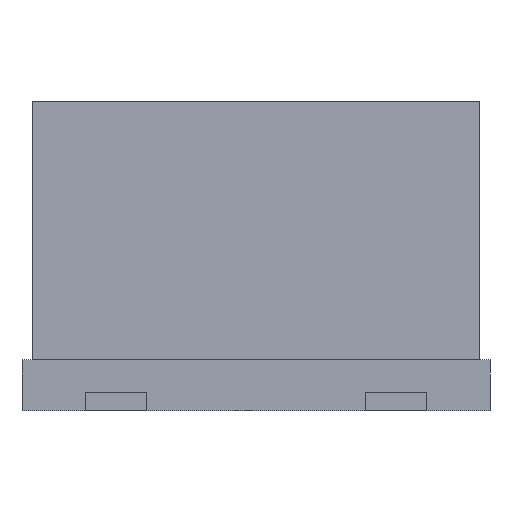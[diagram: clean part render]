
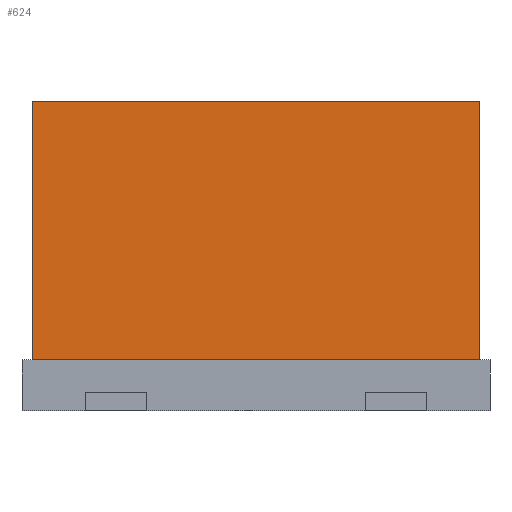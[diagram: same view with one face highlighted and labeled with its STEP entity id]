
A CAD part, front view. The second image highlights one B-rep face of the part: STEP entity #624.
In plain terms, the highlighted planar face has unit normal (0, -1, 0).
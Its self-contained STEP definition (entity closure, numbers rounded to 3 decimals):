
#408 = EDGE_CURVE('',#409,#411,#413,.T.);
#409 = VERTEX_POINT('',#410);
#410 = CARTESIAN_POINT('',(-11.,-9.5,2.5));
#411 = VERTEX_POINT('',#412);
#412 = CARTESIAN_POINT('',(-11.,-9.5,15.2));
#413 = SURFACE_CURVE('',#414,(#418,#430),.PCURVE_S1.);
#414 = LINE('',#415,#416);
#415 = CARTESIAN_POINT('',(-11.,-9.5,2.5));
#416 = VECTOR('',#417,1.);
#417 = DIRECTION('',(0.,0.,1.));
#418 = PCURVE('',#419,#424);
#419 = PLANE('',#420);
#420 = AXIS2_PLACEMENT_3D('',#421,#422,#423);
#421 = CARTESIAN_POINT('',(-11.,-9.5,2.5));
#422 = DIRECTION('',(1.,0.,-0.));
#423 = DIRECTION('',(0.,0.,1.));
#424 = DEFINITIONAL_REPRESENTATION('',(#425),#429);
#425 = LINE('',#426,#427);
#426 = CARTESIAN_POINT('',(0.,0.));
#427 = VECTOR('',#428,1.);
#428 = DIRECTION('',(1.,0.));
#429 = ( GEOMETRIC_REPRESENTATION_CONTEXT(2) 
PARAMETRIC_REPRESENTATION_CONTEXT() REPRESENTATION_CONTEXT('2D SPACE',''
  ) );
#430 = PCURVE('',#431,#436);
#431 = PLANE('',#432);
#432 = AXIS2_PLACEMENT_3D('',#433,#434,#435);
#433 = CARTESIAN_POINT('',(-11.,-9.5,2.5));
#434 = DIRECTION('',(-0.,1.,0.));
#435 = DIRECTION('',(0.,0.,1.));
#436 = DEFINITIONAL_REPRESENTATION('',(#437),#441);
#437 = LINE('',#438,#439);
#438 = CARTESIAN_POINT('',(0.,0.));
#439 = VECTOR('',#440,1.);
#440 = DIRECTION('',(1.,0.));
#441 = ( GEOMETRIC_REPRESENTATION_CONTEXT(2) 
PARAMETRIC_REPRESENTATION_CONTEXT() REPRESENTATION_CONTEXT('2D SPACE',''
  ) );
#459 = PLANE('',#460);
#460 = AXIS2_PLACEMENT_3D('',#461,#462,#463);
#461 = CARTESIAN_POINT('',(-11.,-9.5,2.5));
#462 = DIRECTION('',(0.,0.,1.));
#463 = DIRECTION('',(1.,0.,-0.));
#513 = PLANE('',#514);
#514 = AXIS2_PLACEMENT_3D('',#515,#516,#517);
#515 = CARTESIAN_POINT('',(-11.,-9.5,15.2));
#516 = DIRECTION('',(0.,0.,1.));
#517 = DIRECTION('',(1.,0.,-0.));
#528 = EDGE_CURVE('',#529,#531,#533,.T.);
#529 = VERTEX_POINT('',#530);
#530 = CARTESIAN_POINT('',(11.,-9.5,2.5));
#531 = VERTEX_POINT('',#532);
#532 = CARTESIAN_POINT('',(11.,-9.5,15.2));
#533 = SURFACE_CURVE('',#534,(#538,#550),.PCURVE_S1.);
#534 = LINE('',#535,#536);
#535 = CARTESIAN_POINT('',(11.,-9.5,2.5));
#536 = VECTOR('',#537,1.);
#537 = DIRECTION('',(0.,0.,1.));
#538 = PCURVE('',#539,#544);
#539 = PLANE('',#540);
#540 = AXIS2_PLACEMENT_3D('',#541,#542,#543);
#541 = CARTESIAN_POINT('',(11.,-9.5,2.5));
#542 = DIRECTION('',(1.,0.,-0.));
#543 = DIRECTION('',(0.,0.,1.));
#544 = DEFINITIONAL_REPRESENTATION('',(#545),#549);
#545 = LINE('',#546,#547);
#546 = CARTESIAN_POINT('',(0.,0.));
#547 = VECTOR('',#548,1.);
#548 = DIRECTION('',(1.,0.));
#549 = ( GEOMETRIC_REPRESENTATION_CONTEXT(2) 
PARAMETRIC_REPRESENTATION_CONTEXT() REPRESENTATION_CONTEXT('2D SPACE',''
  ) );
#550 = PCURVE('',#431,#551);
#551 = DEFINITIONAL_REPRESENTATION('',(#552),#556);
#552 = LINE('',#553,#554);
#553 = CARTESIAN_POINT('',(0.,22.));
#554 = VECTOR('',#555,1.);
#555 = DIRECTION('',(1.,0.));
#556 = ( GEOMETRIC_REPRESENTATION_CONTEXT(2) 
PARAMETRIC_REPRESENTATION_CONTEXT() REPRESENTATION_CONTEXT('2D SPACE',''
  ) );
#624 = ADVANCED_FACE('',(#625),#431,.F.);
#625 = FACE_BOUND('',#626,.F.);
#626 = EDGE_LOOP('',(#627,#648,#649,#670));
#627 = ORIENTED_EDGE('',*,*,#628,.F.);
#628 = EDGE_CURVE('',#409,#529,#629,.T.);
#629 = SURFACE_CURVE('',#630,(#634,#641),.PCURVE_S1.);
#630 = LINE('',#631,#632);
#631 = CARTESIAN_POINT('',(-11.,-9.5,2.5));
#632 = VECTOR('',#633,1.);
#633 = DIRECTION('',(1.,0.,-0.));
#634 = PCURVE('',#431,#635);
#635 = DEFINITIONAL_REPRESENTATION('',(#636),#640);
#636 = LINE('',#637,#638);
#637 = CARTESIAN_POINT('',(0.,0.));
#638 = VECTOR('',#639,1.);
#639 = DIRECTION('',(0.,1.));
#640 = ( GEOMETRIC_REPRESENTATION_CONTEXT(2) 
PARAMETRIC_REPRESENTATION_CONTEXT() REPRESENTATION_CONTEXT('2D SPACE',''
  ) );
#641 = PCURVE('',#459,#642);
#642 = DEFINITIONAL_REPRESENTATION('',(#643),#647);
#643 = LINE('',#644,#645);
#644 = CARTESIAN_POINT('',(0.,0.));
#645 = VECTOR('',#646,1.);
#646 = DIRECTION('',(1.,0.));
#647 = ( GEOMETRIC_REPRESENTATION_CONTEXT(2) 
PARAMETRIC_REPRESENTATION_CONTEXT() REPRESENTATION_CONTEXT('2D SPACE',''
  ) );
#648 = ORIENTED_EDGE('',*,*,#408,.T.);
#649 = ORIENTED_EDGE('',*,*,#650,.T.);
#650 = EDGE_CURVE('',#411,#531,#651,.T.);
#651 = SURFACE_CURVE('',#652,(#656,#663),.PCURVE_S1.);
#652 = LINE('',#653,#654);
#653 = CARTESIAN_POINT('',(-11.,-9.5,15.2));
#654 = VECTOR('',#655,1.);
#655 = DIRECTION('',(1.,0.,-0.));
#656 = PCURVE('',#431,#657);
#657 = DEFINITIONAL_REPRESENTATION('',(#658),#662);
#658 = LINE('',#659,#660);
#659 = CARTESIAN_POINT('',(12.7,0.));
#660 = VECTOR('',#661,1.);
#661 = DIRECTION('',(0.,1.));
#662 = ( GEOMETRIC_REPRESENTATION_CONTEXT(2) 
PARAMETRIC_REPRESENTATION_CONTEXT() REPRESENTATION_CONTEXT('2D SPACE',''
  ) );
#663 = PCURVE('',#513,#664);
#664 = DEFINITIONAL_REPRESENTATION('',(#665),#669);
#665 = LINE('',#666,#667);
#666 = CARTESIAN_POINT('',(0.,0.));
#667 = VECTOR('',#668,1.);
#668 = DIRECTION('',(1.,0.));
#669 = ( GEOMETRIC_REPRESENTATION_CONTEXT(2) 
PARAMETRIC_REPRESENTATION_CONTEXT() REPRESENTATION_CONTEXT('2D SPACE',''
  ) );
#670 = ORIENTED_EDGE('',*,*,#528,.F.);
